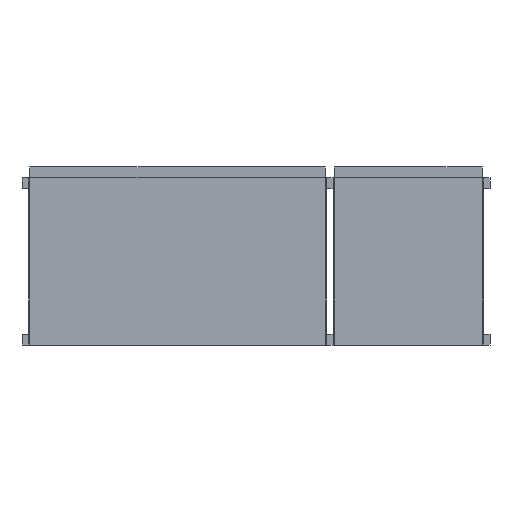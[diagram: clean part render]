
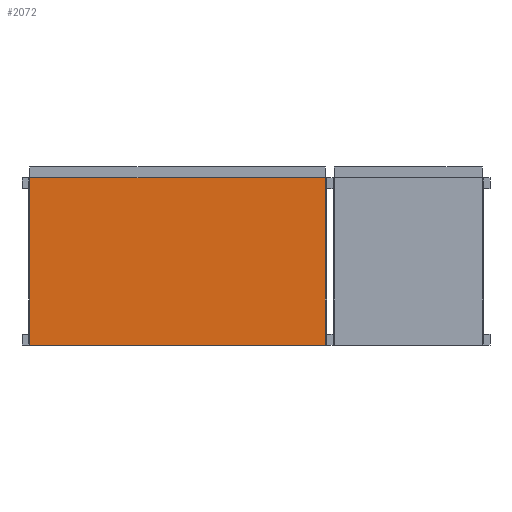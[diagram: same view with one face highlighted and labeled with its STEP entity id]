
A CAD part, front view. The second image highlights one B-rep face of the part: STEP entity #2072.
In plain terms, the highlighted planar face has unit normal (0, -1, 0).
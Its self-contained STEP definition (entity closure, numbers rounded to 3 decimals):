
#420=FACE_OUTER_BOUND('',#555,.T.);
#555=EDGE_LOOP('',(#1671,#1672,#1673,#1674));
#729=LINE('',#3344,#921);
#736=LINE('',#3360,#928);
#741=LINE('',#3368,#933);
#742=LINE('',#3370,#934);
#921=VECTOR('',#2660,680.);
#928=VECTOR('',#2675,680.);
#933=VECTOR('',#2684,385.);
#934=VECTOR('',#2687,385.);
#1097=VERTEX_POINT('',#3341);
#1098=VERTEX_POINT('',#3343);
#1102=VERTEX_POINT('',#3357);
#1103=VERTEX_POINT('',#3359);
#1298=EDGE_CURVE('',#1098,#1097,#729,.T.);
#1306=EDGE_CURVE('',#1103,#1102,#736,.T.);
#1311=EDGE_CURVE('',#1097,#1103,#741,.T.);
#1312=EDGE_CURVE('',#1102,#1098,#742,.T.);
#1671=ORIENTED_EDGE('',*,*,#1298,.T.);
#1672=ORIENTED_EDGE('',*,*,#1311,.T.);
#1673=ORIENTED_EDGE('',*,*,#1306,.T.);
#1674=ORIENTED_EDGE('',*,*,#1312,.T.);
#1957=PLANE('',#2250);
#2072=ADVANCED_FACE('',(#420),#1957,.T.);
#2250=AXIS2_PLACEMENT_3D('',#3371,#2688,#2689);
#2660=DIRECTION('',(-1.,0.,0.));
#2675=DIRECTION('',(1.,0.,0.));
#2684=DIRECTION('',(0.,0.,-1.));
#2687=DIRECTION('',(0.,0.,1.));
#2688=DIRECTION('center_axis',(0.,-1.,0.));
#2689=DIRECTION('ref_axis',(0.,0.,-1.));
#3341=CARTESIAN_POINT('',(-340.,0.,192.5));
#3343=CARTESIAN_POINT('',(340.,0.,192.5));
#3344=CARTESIAN_POINT('',(340.,0.,192.5));
#3357=CARTESIAN_POINT('',(340.,0.,-192.5));
#3359=CARTESIAN_POINT('',(-340.,0.,-192.5));
#3360=CARTESIAN_POINT('',(-340.,0.,-192.5));
#3368=CARTESIAN_POINT('',(-340.,0.,192.5));
#3370=CARTESIAN_POINT('',(340.,0.,-192.5));
#3371=CARTESIAN_POINT('Origin',(0.,0.,0.));
